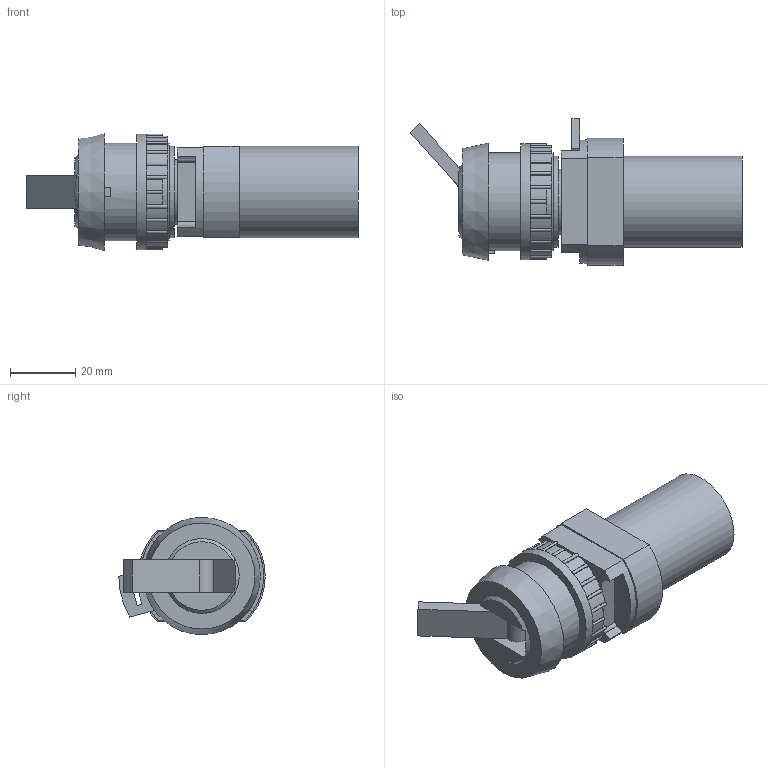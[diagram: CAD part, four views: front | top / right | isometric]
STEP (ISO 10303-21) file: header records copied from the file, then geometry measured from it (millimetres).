
FILE_DESCRIPTION (( 'STEP AP214' ), '1' );
FILE_NAME ('18-T-30-016---T-30-510_Airtec.step', '2018-11-15T13:06:26', ( '' ), ( '' ), 'SwSTEP 2.0', 'SolidWorks 2010', '' );
FILE_SCHEMA (( 'AUTOMOTIVE_DESIGN' ));
Length unit declared in the file: millimetre
Products named in the file (3): Imported1; Imported3; 18-T-30-016---T-30-510_Airtec
Assembly tree (2 placements, depth 2):
  18-T-30-016---T-30-510_Airtec
    Imported1
    Imported3
Bounding box: 102 x 45 x 36 mm (x, y, z)
Volume: 62577 mm3; surface area: 16663.4 mm2
Topology: 2 solids, 2 shells, 362 faces, 980 edges, 638 vertices
Faces by surface type: plane 222, cylinder 132, cone 8
Full cylindrical faces by diameter (mm): 3.9 x1, 4.134 x5, 16 x1, 20 x1, 28 x2, 30 x2, 35.5 x1
Entity records: 11369 total; most frequent: DIRECTION 2020, CARTESIAN_POINT 1970, ORIENTED_EDGE 1904, EDGE_CURVE 952, AXIS2_PLACEMENT_3D 707, VERTEX_POINT 631, VECTOR 606, LINE 606
